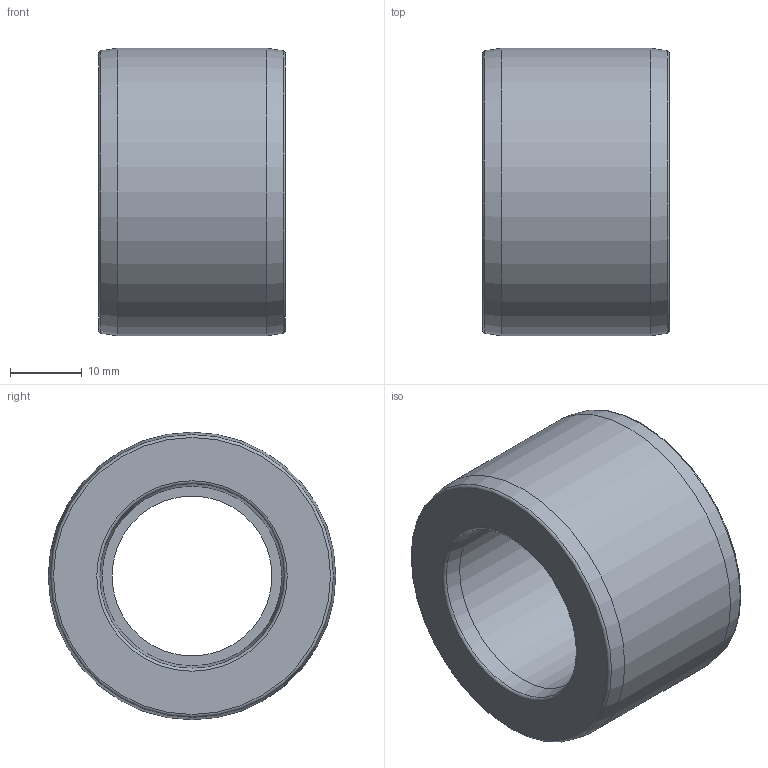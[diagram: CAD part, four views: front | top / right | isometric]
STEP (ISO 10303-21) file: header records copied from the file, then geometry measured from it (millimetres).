
FILE_DESCRIPTION(/* description */ ('PLASSON BUSHING-CEMENT PVC 40-25'),/* implementation_level */ '2;1');
FILE_NAME(/* name */ 'C:\Dropbox\KIMPROJECTS-Inventor\99-16-3568-Processing\PVC Catalog 2017\050900\050900040025.ipt.stp',/* time_stamp */ '2017-12-07T15:59:19+02:00',/* author */ ('KIM'),/* organization */ (''),/* preprocessor_version */ 'ST-DEVELOPER v15.6',/* originating_system */ 'Autodesk Inventor 2015',/* authorisation */ '');
FILE_SCHEMA (('AUTOMOTIVE_DESIGN { 1 0 10303 214 3 1 1 }'));
Length unit declared in the file: millimetre
Products named in the file (1): 050900040025
Bounding box: 26 x 40 x 40 mm (x, y, z)
Volume: 19707.1 mm3; surface area: 6744.1 mm2
Topology: 1 solids, 1 shells, 15 faces, 27 edges, 15 vertices
Faces by surface type: torus 5, cone 4, cylinder 3, plane 3
Full cylindrical faces by diameter (mm): 22.25 x1, 25 x1, 40 x1
Entity records: 332 total; most frequent: DIRECTION 62, CARTESIAN_POINT 46, AXIS2_PLACEMENT_3D 31, EDGE_LOOP 30, ORIENTED_EDGE 30, FACE_BOUND 15, FACE_OUTER_BOUND 15, CIRCLE 15
